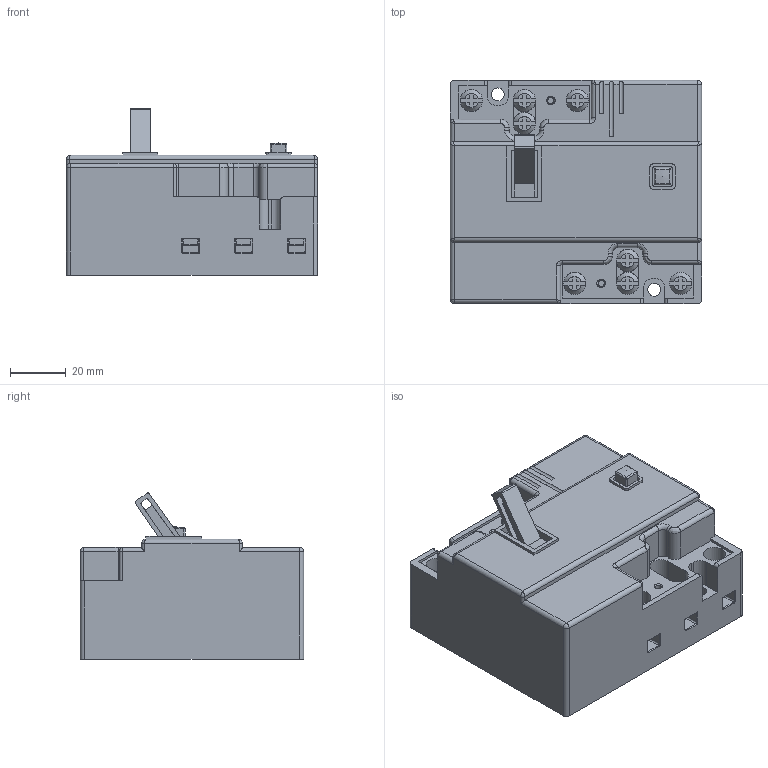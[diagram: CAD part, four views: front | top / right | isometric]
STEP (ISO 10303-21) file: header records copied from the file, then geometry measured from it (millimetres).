
FILE_DESCRIPTION(/* description */ (''),/* implementation_level */ '2;1');
FILE_NAME(/* name */ '04_2_kd-l323j_141029.stp',/* time_stamp */ '2014-10-29T09:44:36+09:00',/* author */ (''),/* organization */ (''),/* preprocessor_version */ 'ST-DEVELOPER v14',/* originating_system */ 'SIEMENS PLM Software NX 8.0',/* authorisation */ '');
FILE_SCHEMA (('AP203_CONFIGURATION_CONTROLLED_3D_DESIGN_OF_MECHANICAL_PARTS_AND_ASSEMBLIES_MIM_LF { 1 0 10303 403 2 1 2}'));
Length unit declared in the file: millimetre
Products named in the file (1): as1808DC4DA56ig4
Bounding box: 90 x 80 x 59.55 mm (x, y, z)
Volume: 271038.8 mm3; surface area: 34488.1 mm2
Topology: 1 solids, 1 shells, 447 faces, 1166 edges, 726 vertices
Faces by surface type: plane 265, cylinder 123, torus 22, cone 18, bspline 12, sphere 7
Full cylindrical faces by diameter (mm): 2.2 x2, 4.6 x2, 8 x4
Entity records: 14055 total; most frequent: CARTESIAN_POINT 3106, ORIENTED_EDGE 2274, DIRECTION 2261, EDGE_CURVE 1137, AXIS2_PLACEMENT_3D 775, VERTEX_POINT 718, LINE 711, VECTOR 711
